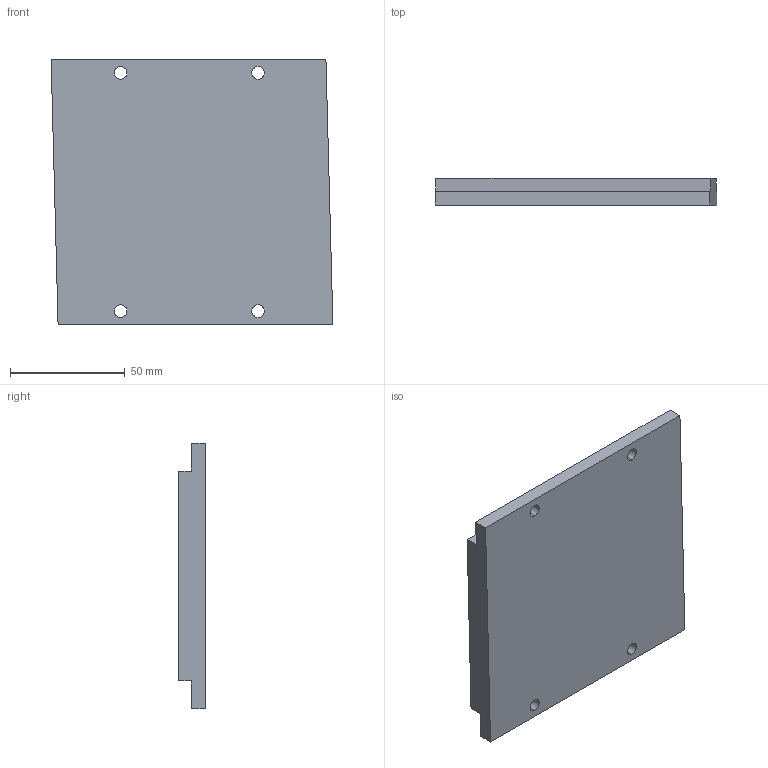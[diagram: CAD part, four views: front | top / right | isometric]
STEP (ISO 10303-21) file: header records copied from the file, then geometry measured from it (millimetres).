
FILE_DESCRIPTION (( 'STEP AP214' ), '1' );
FILE_NAME ('隅赽MK3-120.STEP', '2025-09-05T09:01:04', ( '' ), ( '' ), 'SwSTEP 2.0', 'SolidWorks 2016', '' );
FILE_SCHEMA (( 'AUTOMOTIVE_DESIGN' ));
Length unit declared in the file: millimetre
Products named in the file (1): 隅赽MK3-120
Bounding box: 123.04 x 11.7 x 116 mm (x, y, z)
Volume: 145881.9 mm3; surface area: 33335 mm2
Topology: 1 solids, 1 shells, 48 faces, 132 edges, 88 vertices
Faces by surface type: plane 28, bspline 12, cylinder 8
Entity records: 2242 total; most frequent: CARTESIAN_POINT 1033, ORIENTED_EDGE 264, DIRECTION 198, EDGE_CURVE 132, LINE 92, VECTOR 92, VERTEX_POINT 88, EDGE_LOOP 58
